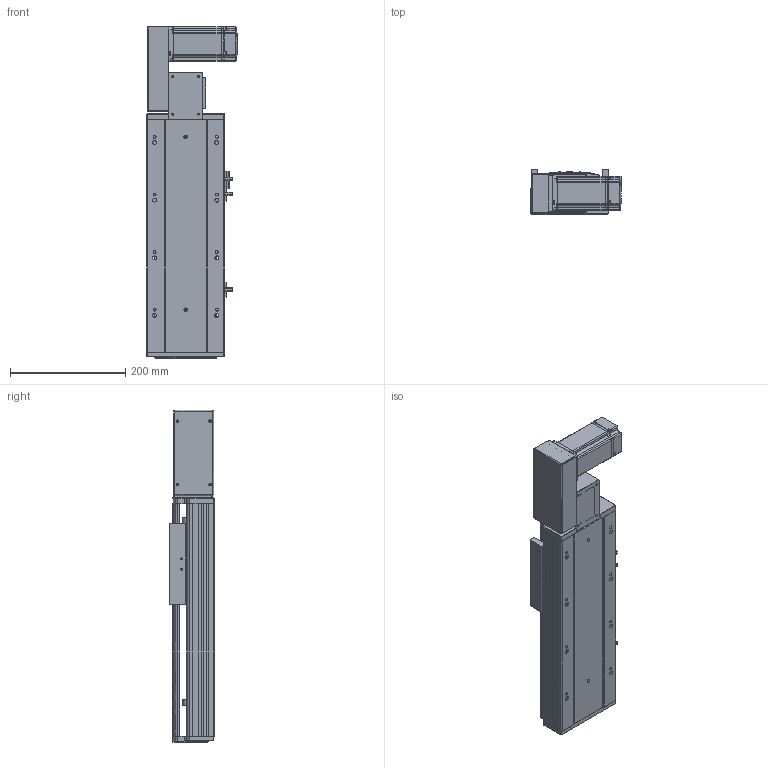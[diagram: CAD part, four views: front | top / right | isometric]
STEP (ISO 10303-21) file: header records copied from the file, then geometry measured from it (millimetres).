
FILE_DESCRIPTION (( 'STEP AP203' ), '1' );
FILE_NAME ('RY140-T-300-LK.SLDASM_150.step', '2021-03-01T06:34:27', ( '盈信电脑' ), ( '东莞市道滘镇水果街19号' ), 'SwSTEP 2.0', 'SolidWorks 2012', '' );
FILE_SCHEMA (( 'CONFIG_CONTROL_DESIGN' ));
Length unit declared in the file: millimetre
Products named in the file (18): RY140-T-300-LK.SLDASM_150; 滅袉蝶18-10; RY140-T翋肮謫裔啣; RY140-T萇儂欶; RY120-T蹟翐M4; 15; 侂狟400W侜督萇儂; RY120-T主同步轮轴承压盖; RY140-T萇儂假蚾啣; RY120外置感应片(140共用）; RY140-T翋肮祭謫盓傅釱; RY120-T肮祭湍揤踡輸1; RY120-T肮祭湍揤踡輸2; RY140肮祭謫臏賑輸; RY140-T-300-DL倰第奻裔啣_150; RY140綴裔啣; 覜茼ん672; RY140-T-300-DL倰第菁釱_150
Assembly tree (23 placements, depth 3):
  RY140-T-300-LK.SLDASM_150
    RY140-T-300-DL倰第菁釱_150
    RY140肮祭謫臏賑輸
    RY140-T-300-DL倰第奻裔啣_150
    RY140綴裔啣
    覜茼ん672  x3
    RY120外置感应片(140共用）
    RY120-T肮祭湍揤踡輸2
    RY120-T肮祭湍揤踡輸1
    RY140-T翋肮祭謫盓傅釱
    RY140-T萇儂假蚾啣
    侂狟400W侜督萇儂
      15
    RY120-T主同步轮轴承压盖
    RY120-T蹟翐M4  x4
    RY140-T萇儂欶
    滅袉蝶18-10  x2
    RY140-T翋肮謫裔啣
Bounding box: 157 x 78 x 576.5 mm (x, y, z)
Volume: 1963745.9 mm3; surface area: 694287.4 mm2
Topology: 22 solids, 22 shells, 2503 faces, 6817 edges, 4408 vertices
Faces by surface type: plane 1381, cylinder 860, cone 162, bspline 100
Entity records: 79009 total; most frequent: CARTESIAN_POINT 19347, ORIENTED_EDGE 12234, DIRECTION 11581, EDGE_CURVE 6117, VECTOR 4021, LINE 4021, VERTEX_POINT 4007, AXIS2_PLACEMENT_3D 3780
